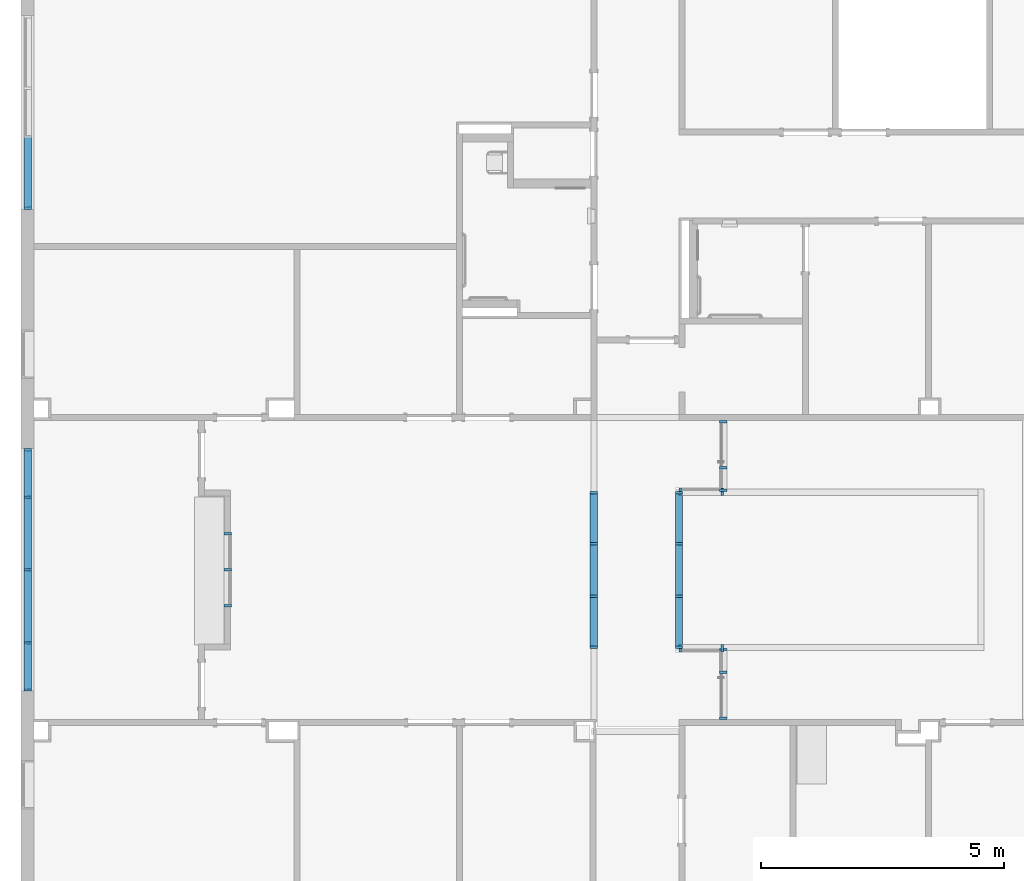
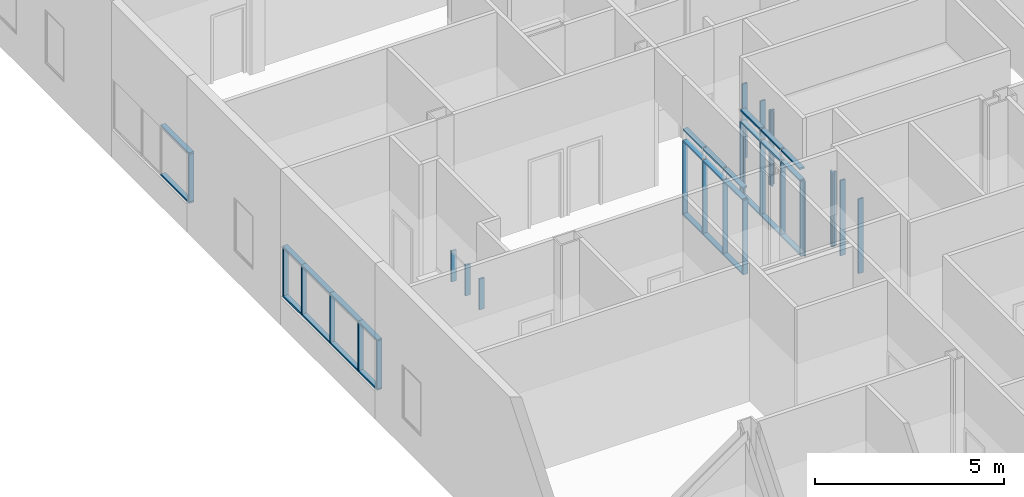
# One storey, part 6 of 82: 55 members, 9 elements without a shape of their own.
"""IFC2X3 building model written with IfcOpenShell, lengths in metres."""

from ifc_helpers import new_model, entity, si_unit, converted_unit, frame, origin, origin_2d_with_axis, place, context, project, spatial, rectangle, extrude, source, transform, mapped, material, type_object, type_shapes, element, aggregate, save


model = new_model("IFC2X3")

# Units and contexts
model_context = context("Model", 3, precision=1e-09, world=origin())
plan_context = context("Plan", 3, precision=1e-09, world=origin())
ifc_project = project(units=[si_unit("LENGTHUNIT", "METRE"), si_unit("AREAUNIT", "SQUARE_METRE"), si_unit("VOLUMEUNIT", "CUBIC_METRE"), converted_unit("PLANEANGLEUNIT", "DEGREE", entity("IfcRatioMeasure", 0.01745329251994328), si_unit("PLANEANGLEUNIT", "RADIAN"), dimensions=[0, 0, 0, 0, 0, 0, 0]), si_unit("TIMEUNIT", "SECOND")], contexts=[model_context, plan_context])

# Site, building, storey
site_placement = place(None, origin())
site = spatial("IfcSite", under=ifc_project, at=site_placement, Name="Default", CompositionType="ELEMENT")
building_placement = place(site_placement, origin())
building = spatial("IfcBuilding", under=site, at=building_placement, CompositionType="ELEMENT")
storey_placement = place(building_placement, origin())
storey = spatial("IfcBuildingStorey", under=building, at=storey_placement, Name="First Floor", CompositionType="ELEMENT", Elevation=-3.531500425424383e-13)

# Curtain wall, member
curtain_wall_1_placement = place(storey_placement, origin())
curtain_wall_1 = element("IfcCurtainWall", 1, at=curtain_wall_1_placement, inside=storey, Name="Curtain Wall:Storefront - Interior", ObjectType="Curtain Wall:Storefront - Interior")
ifc_material = material(Name="Metal - Aluminium")
member_type_1 = type_object("IfcMemberType", Name="50 x 150mm", PredefinedType="MULLION")
shared_shape_1 = source(origin(), model_context, "Body", "SweptSolid", [
    extrude(rectangle(XDim=0.05, YDim=0.15, at=origin_2d_with_axis()), frame((-0.025, 0.0, -2.4), z_axis=(0.0, 0.0, 1.0), x_axis=(-1.0, 0.0, 0.0)), (0.0, 0.0, 1.0), 2.4),
])
type_shapes(member_type_1, [shared_shape_1])
member_1_placement = place(storey_placement, frame((-40.47500000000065, 30.07999999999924, 0.0), z_axis=(0.0, 0.0, -1.0), x_axis=(0.0, -1.0, 0.0)))
member_1 = element("IfcMember", 2, at=member_1_placement, type_object=member_type_1, material=ifc_material, Name="Rectangular Mullion:50 x 150mm:50 x 150mm", ObjectType="50 x 150mm", context=model_context, shape_type="MappedRepresentation", body=[
    mapped(shared_shape_1, transform((0.0, 0.0, 0.0), scale=1.0)),
])

curtain_wall_2_placement = place(storey_placement, origin())
curtain_wall_2 = element("IfcCurtainWall", 3, at=curtain_wall_2_placement, inside=storey, Name="Curtain Wall:Storefront - Interior", ObjectType="Curtain Wall:Storefront - Interior")
member_2_placement = place(storey_placement, frame((-37.80500000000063, 33.30999999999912, 0.0), z_axis=(0.0, 0.0, -1.0), x_axis=(1.0, 0.0, 0.0)))
member_2 = element("IfcMember", 4, at=member_2_placement, type_object=member_type_1, material=ifc_material, Name="Rectangular Mullion:50 x 150mm:50 x 150mm", ObjectType="50 x 150mm", context=model_context, shape_type="MappedRepresentation", body=[
    mapped(shared_shape_1, transform((0.0, 0.0, 0.0), scale=1.0)),
])

curtain_wall_3_placement = place(storey_placement, origin())
curtain_wall_3 = element("IfcCurtainWall", 5, at=curtain_wall_3_placement, inside=storey, Name="Curtain Wall:Storefront - Interior", ObjectType="Curtain Wall:Storefront - Interior")
member_3_placement = place(storey_placement, frame((-38.72000000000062, 30.07999999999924, 0.0), z_axis=(0.0, 0.0, -1.0), x_axis=(-1.0, 0.0, 0.0)))
member_3 = element("IfcMember", 6, at=member_3_placement, type_object=member_type_1, material=ifc_material, Name="Rectangular Mullion:50 x 150mm:50 x 150mm", ObjectType="50 x 150mm", context=model_context, shape_type="MappedRepresentation", body=[
    mapped(shared_shape_1, transform((0.0, 0.0, 0.0), scale=1.0)),
])

curtain_wall_4_placement = place(storey_placement, origin())
curtain_wall_4 = element("IfcCurtainWall", 7, at=curtain_wall_4_placement, inside=storey, Name="Curtain Wall:Storefront - Interior", ObjectType="Curtain Wall:Storefront - Interior")
member_4_placement = place(storey_placement, frame((-37.80500000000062, 30.07999999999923, 0.0), z_axis=(0.0, 0.0, -1.0), x_axis=(0.0, 1.0, 0.0)))
member_4 = element("IfcMember", 8, at=member_4_placement, type_object=member_type_1, material=ifc_material, Name="Rectangular Mullion:50 x 150mm:50 x 150mm", ObjectType="50 x 150mm", context=model_context, shape_type="MappedRepresentation", body=[
    mapped(shared_shape_1, transform((0.0, 0.0, 0.0), scale=1.0)),
])

# Member
member_type_2 = type_object("IfcMemberType", Name="50 x 150mm", PredefinedType="MULLION")
type_shapes(member_type_2, [shared_shape_1])
member_5_placement = place(storey_placement, frame((-40.47500000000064, 33.30999999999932, 2.4), z_axis=(0.0, 0.0, 1.0), x_axis=(0.0, 1.0, 0.0)))
member_5 = element("IfcMember", 9, at=member_5_placement, type_object=member_type_2, material=ifc_material, Name="Rectangular Mullion:50 x 150mm:50 x 150mm", ObjectType="50 x 150mm", context=model_context, shape_type="MappedRepresentation", body=[
    mapped(shared_shape_1, transform((0.0, 0.0, 0.0), scale=1.0)),
])

member_6_placement = place(storey_placement, frame((-37.80500000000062, 30.07999999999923, 2.399999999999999)))
member_6 = element("IfcMember", 10, at=member_6_placement, type_object=member_type_2, material=ifc_material, Name="Rectangular Mullion:50 x 150mm:50 x 150mm", ObjectType="50 x 150mm", context=model_context, shape_type="MappedRepresentation", body=[
    mapped(shared_shape_1, transform((0.0, 0.0, 0.0), scale=1.0)),
])

aggregate(curtain_wall_3, [member_3, member_6])

# Curtain wall, member
curtain_wall_5_placement = place(storey_placement, origin())
curtain_wall_5 = element("IfcCurtainWall", 11, at=curtain_wall_5_placement, inside=storey, Name="Curtain Wall:Storefront - Interior", ObjectType="Curtain Wall:Storefront - Interior")
member_7_placement = place(storey_placement, frame((-37.80500000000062, 34.77954814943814, 0.0), z_axis=(0.0, 0.0, -1.0), x_axis=(0.0, 1.0, 0.0)))
member_7 = element("IfcMember", 12, at=member_7_placement, type_object=member_type_1, material=ifc_material, Name="Rectangular Mullion:50 x 150mm:50 x 150mm", ObjectType="50 x 150mm", context=model_context, shape_type="MappedRepresentation", body=[
    mapped(shared_shape_1, transform((0.0, 0.0, 0.0), scale=1.0)),
])

# Member
member_8_placement = place(storey_placement, frame((-37.80500000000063, 28.60999999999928, 2.399999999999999), z_axis=(0.0, 0.0, 1.0), x_axis=(0.0, -1.0, 0.0)))
member_8 = element("IfcMember", 13, at=member_8_placement, type_object=member_type_2, material=ifc_material, Name="Rectangular Mullion:50 x 150mm:50 x 150mm", ObjectType="50 x 150mm", context=model_context, shape_type="MappedRepresentation", body=[
    mapped(shared_shape_1, transform((0.0, 0.0, 0.0), scale=1.0)),
])

member_9_placement = place(storey_placement, frame((-38.72000000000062, 33.30999999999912, 2.399999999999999), z_axis=(0.0, 0.0, 1.0), x_axis=(-1.0, 0.0, 0.0)))
member_9 = element("IfcMember", 14, at=member_9_placement, type_object=member_type_2, material=ifc_material, Name="Rectangular Mullion:50 x 150mm:50 x 150mm", ObjectType="50 x 150mm", context=model_context, shape_type="MappedRepresentation", body=[
    mapped(shared_shape_1, transform((0.0, 0.0, 0.0), scale=1.0)),
])

aggregate(curtain_wall_2, [member_2, member_9])

# Curtain wall, member
curtain_wall_6_placement = place(storey_placement, origin())
curtain_wall_6 = element("IfcCurtainWall", 15, at=curtain_wall_6_placement, inside=storey, Name="Curtain Wall:Storefront - Interior", ObjectType="Curtain Wall:Storefront - Interior")
member_10_placement = place(storey_placement, frame((-38.72000000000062, 33.30999999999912, 0.0), z_axis=(0.0, 0.0, -1.0), x_axis=(0.0, 1.0, 0.0)))
member_10 = element("IfcMember", 16, at=member_10_placement, type_object=member_type_1, material=ifc_material, Name="Rectangular Mullion:50 x 150mm:50 x 150mm", ObjectType="50 x 150mm", context=model_context, shape_type="MappedRepresentation", body=[
    mapped(shared_shape_1, transform((0.0, 0.0, 0.0), scale=1.0)),
])

# Member
member_11_placement = place(storey_placement, frame((-37.80500000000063, 33.30999999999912, 2.399999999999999), z_axis=(0.0, 0.0, 1.0), x_axis=(0.0, -1.0, 0.0)))
member_11 = element("IfcMember", 17, at=member_11_placement, type_object=member_type_2, material=ifc_material, Name="Rectangular Mullion:50 x 150mm:50 x 150mm", ObjectType="50 x 150mm", context=model_context, shape_type="MappedRepresentation", body=[
    mapped(shared_shape_1, transform((0.0, 0.0, 0.0), scale=1.0)),
])

member_12_placement = place(storey_placement, frame((-38.72000000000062, 30.07999999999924, 2.399999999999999), z_axis=(0.0, 0.0, 1.0), x_axis=(0.0, -1.0, 0.0)))
member_12 = element("IfcMember", 18, at=member_12_placement, type_object=member_type_2, material=ifc_material, Name="Rectangular Mullion:50 x 150mm:50 x 150mm", ObjectType="50 x 150mm", context=model_context, shape_type="MappedRepresentation", body=[
    mapped(shared_shape_1, transform((0.0, 0.0, 0.0), scale=1.0)),
])

# Curtain wall, member
curtain_wall_7_placement = place(storey_placement, origin())
curtain_wall_7 = element("IfcCurtainWall", 19, at=curtain_wall_7_placement, inside=storey, Name="Curtain Wall:Storefront", ObjectType="Curtain Wall:Storefront")
member_type_3 = type_object("IfcMemberType", Name="50 x 150mm", PredefinedType="MULLION")
shared_shape_2 = source(origin(), model_context, "Body", "SweptSolid", [
    extrude(rectangle(XDim=0.05, YDim=0.15, at=origin_2d_with_axis()), frame((-0.025, 0.0, -1.499999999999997), z_axis=(0.0, 0.0, 1.0), x_axis=(-1.0, 0.0, 0.0)), (0.0, 0.0, 1.0), 1.499999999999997),
])
type_shapes(member_type_3, [shared_shape_2])
member_13_placement = place(storey_placement, frame((-52.14650000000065, 30.19495592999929, 0.905), z_axis=(0.0, -1.0, 0.0), x_axis=(0.0, 0.0, -1.0)))
member_13 = element("IfcMember", 20, at=member_13_placement, type_object=member_type_3, material=ifc_material, Name="Rectangular Mullion:50 x 150mm:50 x 150mm", ObjectType="50 x 150mm", context=model_context, shape_type="MappedRepresentation", body=[
    mapped(shared_shape_2, transform((0.0, 0.0, 0.0), scale=1.0)),
])

# Curtain wall, members
curtain_wall_8_placement = place(storey_placement, origin())
curtain_wall_8 = element("IfcCurtainWall", 21, at=curtain_wall_8_placement, inside=storey, Name="Curtain Wall:Storefront", ObjectType="Curtain Wall:Storefront")
member_type_4 = type_object("IfcMemberType", Name="50 x 150mm", PredefinedType="MULLION")
type_shapes(member_type_4, [shared_shape_2])
member_14_placement = place(storey_placement, frame((-52.14650000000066, 40.6299522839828, 2.54), z_axis=(0.0, 1.0, 0.0), x_axis=(0.0, 0.0, 1.0)))
member_14 = element("IfcMember", 22, at=member_14_placement, type_object=member_type_4, material=ifc_material, Name="Rectangular Mullion:50 x 150mm:50 x 150mm", ObjectType="50 x 150mm", context=model_context, shape_type="MappedRepresentation", body=[
    mapped(shared_shape_2, transform((0.0, 0.0, 0.0), scale=1.0)),
])
member_type_5 = type_object("IfcMemberType", Name="50 x 150mm", PredefinedType="MULLION")
type_shapes(member_type_5, [shared_shape_2])
member_15_placement = place(storey_placement, frame((-52.14650000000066, 39.12995228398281, 0.905), z_axis=(0.0, -1.0, 0.0), x_axis=(0.0, 0.0, -1.0)))
member_15 = element("IfcMember", 23, at=member_15_placement, type_object=member_type_5, material=ifc_material, Name="Rectangular Mullion:50 x 150mm:50 x 150mm", ObjectType="50 x 150mm", context=model_context, shape_type="MappedRepresentation", body=[
    mapped(shared_shape_2, transform((0.0, 0.0, 0.0), scale=1.0)),
])

# Member
member_16_placement = place(storey_placement, frame((-52.14650000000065, 31.69495592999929, 0.905), z_axis=(0.0, -1.0, 0.0), x_axis=(0.0, 0.0, -1.0)))
member_16 = element("IfcMember", 24, at=member_16_placement, type_object=member_type_3, material=ifc_material, Name="Rectangular Mullion:50 x 150mm:50 x 150mm", ObjectType="50 x 150mm", context=model_context, shape_type="MappedRepresentation", body=[
    mapped(shared_shape_2, transform((0.0, 0.0, 0.0), scale=1.0)),
])

member_type_6 = type_object("IfcMemberType", Name="50 x 150mm", PredefinedType="MULLION")
type_shapes(member_type_6, [shared_shape_2])
member_17_placement = place(storey_placement, frame((-52.14650000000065, 31.69495592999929, 2.54), z_axis=(0.0, 1.0, 0.0), x_axis=(0.0, 0.0, 1.0)))
member_17 = element("IfcMember", 25, at=member_17_placement, type_object=member_type_6, material=ifc_material, Name="Rectangular Mullion:50 x 150mm:50 x 150mm", ObjectType="50 x 150mm", context=model_context, shape_type="MappedRepresentation", body=[
    mapped(shared_shape_2, transform((0.0, 0.0, 0.0), scale=1.0)),
])

member_18_placement = place(storey_placement, frame((-52.14650000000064, 33.19495592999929, 2.54), z_axis=(0.0, 1.0, 0.0), x_axis=(0.0, 0.0, 1.0)))
member_18 = element("IfcMember", 26, at=member_18_placement, type_object=member_type_6, material=ifc_material, Name="Rectangular Mullion:50 x 150mm:50 x 150mm", ObjectType="50 x 150mm", context=model_context, shape_type="MappedRepresentation", body=[
    mapped(shared_shape_2, transform((0.0, 0.0, 0.0), scale=1.0)),
])

member_type_7 = type_object("IfcMemberType", Name="50 x 150mm", PredefinedType="MULLION")
shared_shape_3 = source(origin(), model_context, "Body", "SweptSolid", [
    extrude(rectangle(XDim=0.05, YDim=0.15, at=origin_2d_with_axis()), frame((-0.025, 0.0, -1.001666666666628), z_axis=(0.0, 0.0, 1.0), x_axis=(-1.0, 0.0, 0.0)), (0.0, 0.0, 1.0), 1.00166666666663),
])
type_shapes(member_type_7, [shared_shape_3])
member_19_placement = place(storey_placement, frame((-38.72000000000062, 33.25999999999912, 2.8), z_axis=(0.0, 1.0, 0.0), x_axis=(0.0, 0.0, 1.0)))
member_19 = element("IfcMember", 27, at=member_19_placement, type_object=member_type_7, material=ifc_material, Name="Rectangular Mullion:50 x 150mm:50 x 150mm", ObjectType="50 x 150mm", context=model_context, shape_type="MappedRepresentation", body=[
    mapped(shared_shape_3, transform((0.0, 0.0, 0.0), scale=1.0)),
])

member_type_8 = type_object("IfcMemberType", Name="50 x 150mm", PredefinedType="MULLION")
type_shapes(member_type_8, [shared_shape_3])
member_20_placement = place(storey_placement, frame((-40.47500000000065, 31.13166666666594, 0.0), z_axis=(0.0, 1.0, 0.0), x_axis=(0.0, 0.0, -1.0)))
member_20 = element("IfcMember", 28, at=member_20_placement, type_object=member_type_8, material=ifc_material, Name="Rectangular Mullion:50 x 150mm:50 x 150mm", ObjectType="50 x 150mm", context=model_context, shape_type="MappedRepresentation", body=[
    mapped(shared_shape_3, transform((0.0, 0.0, 0.0), scale=1.0)),
])

member_21_placement = place(storey_placement, frame((-40.47500000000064, 33.25999999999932, 0.0), z_axis=(0.0, 1.0, 0.0), x_axis=(0.0, 0.0, -1.0)))
member_21 = element("IfcMember", 29, at=member_21_placement, type_object=member_type_8, material=ifc_material, Name="Rectangular Mullion:50 x 150mm:50 x 150mm", ObjectType="50 x 150mm", context=model_context, shape_type="MappedRepresentation", body=[
    mapped(shared_shape_3, transform((0.0, 0.0, 0.0), scale=1.0)),
])

member_22_placement = place(storey_placement, frame((-38.72000000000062, 31.13166666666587, 2.8), z_axis=(0.0, 1.0, 0.0), x_axis=(0.0, 0.0, 1.0)))
member_22 = element("IfcMember", 30, at=member_22_placement, type_object=member_type_7, material=ifc_material, Name="Rectangular Mullion:50 x 150mm:50 x 150mm", ObjectType="50 x 150mm", context=model_context, shape_type="MappedRepresentation", body=[
    mapped(shared_shape_3, transform((0.0, 0.0, 0.0), scale=1.0)),
])

member_23_placement = place(storey_placement, frame((-40.47500000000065, 30.12999999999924, 2.8), z_axis=(0.0, -1.0, 0.0), x_axis=(0.0, 0.0, 1.0)))
member_23 = element("IfcMember", 31, at=member_23_placement, type_object=member_type_7, material=ifc_material, Name="Rectangular Mullion:50 x 150mm:50 x 150mm", ObjectType="50 x 150mm", context=model_context, shape_type="MappedRepresentation", body=[
    mapped(shared_shape_3, transform((0.0, 0.0, 0.0), scale=1.0)),
])

member_24_placement = place(storey_placement, frame((-38.72000000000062, 30.12999999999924, 0.0), z_axis=(0.0, -1.0, 0.0), x_axis=(0.0, 0.0, -1.0)))
member_24 = element("IfcMember", 32, at=member_24_placement, type_object=member_type_8, material=ifc_material, Name="Rectangular Mullion:50 x 150mm:50 x 150mm", ObjectType="50 x 150mm", context=model_context, shape_type="MappedRepresentation", body=[
    mapped(shared_shape_3, transform((0.0, 0.0, 0.0), scale=1.0)),
])

member_25_placement = place(storey_placement, frame((-38.72000000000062, 32.25833333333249, 0.0), z_axis=(0.0, -1.0, 0.0), x_axis=(0.0, 0.0, -1.0)))
member_25 = element("IfcMember", 33, at=member_25_placement, type_object=member_type_8, material=ifc_material, Name="Rectangular Mullion:50 x 150mm:50 x 150mm", ObjectType="50 x 150mm", context=model_context, shape_type="MappedRepresentation", body=[
    mapped(shared_shape_3, transform((0.0, 0.0, 0.0), scale=1.0)),
])

member_26_placement = place(storey_placement, frame((-40.47500000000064, 32.25833333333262, 2.8), z_axis=(0.0, -1.0, 0.0), x_axis=(0.0, 0.0, 1.0)))
member_26 = element("IfcMember", 34, at=member_26_placement, type_object=member_type_7, material=ifc_material, Name="Rectangular Mullion:50 x 150mm:50 x 150mm", ObjectType="50 x 150mm", context=model_context, shape_type="MappedRepresentation", body=[
    mapped(shared_shape_3, transform((0.0, 0.0, 0.0), scale=1.0)),
])

member_type_9 = type_object("IfcMemberType", Name="50 x 150mm", PredefinedType="MULLION")
shared_shape_4 = source(origin(), model_context, "Body", "SweptSolid", [
    extrude(rectangle(XDim=0.05, YDim=0.15, at=origin_2d_with_axis()), frame((-0.025, 0.0, -1.0), z_axis=(0.0, 0.0, 1.0), x_axis=(-1.0, 0.0, 0.0)), (0.0, 0.0, 1.0), 1.0),
])
type_shapes(member_type_9, [shared_shape_4])
member_27_placement = place(storey_placement, frame((-52.14650000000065, 29.19495592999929, 0.905), z_axis=(0.0, -1.0, 0.0), x_axis=(0.0, 0.0, -1.0)))
member_27 = element("IfcMember", 35, at=member_27_placement, type_object=member_type_9, material=ifc_material, Name="Rectangular Mullion:50 x 150mm:50 x 150mm", ObjectType="50 x 150mm", context=model_context, shape_type="MappedRepresentation", body=[
    mapped(shared_shape_4, transform((0.0, 0.0, 0.0), scale=1.0)),
])

member_type_10 = type_object("IfcMemberType", Name="50 x 150mm", PredefinedType="MULLION")
type_shapes(member_type_10, [shared_shape_4])
member_28_placement = place(storey_placement, frame((-52.14650000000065, 30.19495592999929, 2.54), z_axis=(0.0, 1.0, 0.0), x_axis=(0.0, 0.0, 1.0)))
member_28 = element("IfcMember", 36, at=member_28_placement, type_object=member_type_10, material=ifc_material, Name="Rectangular Mullion:50 x 150mm:50 x 150mm", ObjectType="50 x 150mm", context=model_context, shape_type="MappedRepresentation", body=[
    mapped(shared_shape_4, transform((0.0, 0.0, 0.0), scale=1.0)),
])

member_type_11 = type_object("IfcMemberType", Name="50 x 150mm", PredefinedType="MULLION")
type_shapes(member_type_11, [shared_shape_4])
member_29_placement = place(storey_placement, frame((-52.14650000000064, 34.19495592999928, 2.54), z_axis=(0.0, 1.0, 0.0), x_axis=(0.0, 0.0, 1.0)))
member_29 = element("IfcMember", 37, at=member_29_placement, type_object=member_type_11, material=ifc_material, Name="Rectangular Mullion:50 x 150mm:50 x 150mm", ObjectType="50 x 150mm", context=model_context, shape_type="MappedRepresentation", body=[
    mapped(shared_shape_4, transform((0.0, 0.0, 0.0), scale=1.0)),
])

member_type_12 = type_object("IfcMemberType", Name="50 x 150mm", PredefinedType="MULLION")
shared_shape_5 = source(origin(), model_context, "Body", "SweptSolid", [
    extrude(rectangle(XDim=0.05, YDim=0.15, at=origin_2d_with_axis()), frame((0.0, 0.0, -1.535), z_axis=(0.0, 0.0, 1.0), x_axis=(-1.0, 0.0, 0.0)), (0.0, 0.0, 1.0), 1.535),
])
type_shapes(member_type_12, [shared_shape_5])
member_30_placement = place(storey_placement, frame((-52.14650000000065, 30.19495592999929, 0.9550000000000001), z_axis=(0.0, 0.0, -1.0), x_axis=(0.0, 1.0, 0.0)))
member_30 = element("IfcMember", 38, at=member_30_placement, type_object=member_type_12, material=ifc_material, Name="Rectangular Mullion:50 x 150mm:50 x 150mm", ObjectType="50 x 150mm", context=model_context, shape_type="MappedRepresentation", body=[
    mapped(shared_shape_5, transform((0.0, 0.0, 0.0), scale=1.0)),
])

member_31_placement = place(storey_placement, frame((-52.14650000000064, 33.19495592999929, 0.9550000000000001), z_axis=(0.0, 0.0, -1.0), x_axis=(0.0, 1.0, 0.0)))
member_31 = element("IfcMember", 39, at=member_31_placement, type_object=member_type_12, material=ifc_material, Name="Rectangular Mullion:50 x 150mm:50 x 150mm", ObjectType="50 x 150mm", context=model_context, shape_type="MappedRepresentation", body=[
    mapped(shared_shape_5, transform((0.0, 0.0, 0.0), scale=1.0)),
])

member_32_placement = place(storey_placement, frame((-52.14650000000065, 31.69495592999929, 0.9550000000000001), z_axis=(0.0, 0.0, -1.0), x_axis=(0.0, 1.0, 0.0)))
member_32 = element("IfcMember", 40, at=member_32_placement, type_object=member_type_12, material=ifc_material, Name="Rectangular Mullion:50 x 150mm:50 x 150mm", ObjectType="50 x 150mm", context=model_context, shape_type="MappedRepresentation", body=[
    mapped(shared_shape_5, transform((0.0, 0.0, 0.0), scale=1.0)),
])

member_type_13 = type_object("IfcMemberType", Name="50 x 150mm", PredefinedType="MULLION")
shared_shape_6 = source(origin(), model_context, "Body", "SweptSolid", [
    extrude(rectangle(XDim=0.05, YDim=0.15, at=origin_2d_with_axis()), frame((-0.025, 0.0, -1.535), z_axis=(0.0, 0.0, 1.0), x_axis=(-1.0, 0.0, 0.0)), (0.0, 0.0, 1.0), 1.535),
])
type_shapes(member_type_13, [shared_shape_6])
member_33_placement = place(storey_placement, frame((-52.14650000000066, 39.12995228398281, 2.49), z_axis=(0.0, 0.0, 1.0), x_axis=(0.0, -1.0, 0.0)))
member_33 = element("IfcMember", 41, at=member_33_placement, type_object=member_type_13, material=ifc_material, Name="Rectangular Mullion:50 x 150mm:50 x 150mm", ObjectType="50 x 150mm", context=model_context, shape_type="MappedRepresentation", body=[
    mapped(shared_shape_6, transform((0.0, 0.0, 0.0), scale=1.0)),
])

aggregate(curtain_wall_8, [member_33, member_14, member_15])

member_type_14 = type_object("IfcMemberType", Name="50 x 150mm", PredefinedType="MULLION")
type_shapes(member_type_14, [shared_shape_6])
member_34_placement = place(storey_placement, frame((-52.14650000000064, 34.19495592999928, 0.9550000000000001), z_axis=(0.0, 0.0, -1.0), x_axis=(0.0, 1.0, 0.0)))
member_34 = element("IfcMember", 42, at=member_34_placement, type_object=member_type_14, material=ifc_material, Name="Rectangular Mullion:50 x 150mm:50 x 150mm", ObjectType="50 x 150mm", context=model_context, shape_type="MappedRepresentation", body=[
    mapped(shared_shape_6, transform((0.0, 0.0, 0.0), scale=1.0)),
])

member_35_placement = place(storey_placement, frame((-52.14650000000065, 29.19495592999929, 2.49), z_axis=(0.0, 0.0, 1.0), x_axis=(0.0, -1.0, 0.0)))
member_35 = element("IfcMember", 43, at=member_35_placement, type_object=member_type_13, material=ifc_material, Name="Rectangular Mullion:50 x 150mm:50 x 150mm", ObjectType="50 x 150mm", context=model_context, shape_type="MappedRepresentation", body=[
    mapped(shared_shape_6, transform((0.0, 0.0, 0.0), scale=1.0)),
])

member_type_15 = type_object("IfcMemberType", Name="50 x 150mm", PredefinedType="MULLION")
shared_shape_7 = source(origin(), model_context, "Body", "SweptSolid", [
    extrude(rectangle(XDim=0.05, YDim=0.15, at=origin_2d_with_axis()), frame((0.0, 0.0, -2.4), z_axis=(0.0, 0.0, 1.0), x_axis=(-1.0, 0.0, 0.0)), (0.0, 0.0, 1.0), 2.4),
])
type_shapes(member_type_15, [shared_shape_7])
member_36_placement = place(storey_placement, frame((-40.47500000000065, 31.15666666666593, 0.0), z_axis=(0.0, 0.0, -1.0), x_axis=(0.0, -1.0, 0.0)))
member_36 = element("IfcMember", 44, at=member_36_placement, type_object=member_type_15, material=ifc_material, Name="Rectangular Mullion:50 x 150mm:50 x 150mm", ObjectType="50 x 150mm", context=model_context, shape_type="MappedRepresentation", body=[
    mapped(shared_shape_7, transform((0.0, 0.0, 0.0), scale=1.0)),
])

member_37_placement = place(storey_placement, frame((-40.47500000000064, 32.23333333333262, 0.0), z_axis=(0.0, 0.0, -1.0), x_axis=(0.0, -1.0, 0.0)))
member_37 = element("IfcMember", 45, at=member_37_placement, type_object=member_type_15, material=ifc_material, Name="Rectangular Mullion:50 x 150mm:50 x 150mm", ObjectType="50 x 150mm", context=model_context, shape_type="MappedRepresentation", body=[
    mapped(shared_shape_7, transform((0.0, 0.0, 0.0), scale=1.0)),
])

member_38_placement = place(storey_placement, frame((-38.72000000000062, 32.2333333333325, 0.0), z_axis=(0.0, 0.0, -1.0), x_axis=(0.0, 1.0, 0.0)))
member_38 = element("IfcMember", 46, at=member_38_placement, type_object=member_type_15, material=ifc_material, Name="Rectangular Mullion:50 x 150mm:50 x 150mm", ObjectType="50 x 150mm", context=model_context, shape_type="MappedRepresentation", body=[
    mapped(shared_shape_7, transform((0.0, 0.0, 0.0), scale=1.0)),
])

member_39_placement = place(storey_placement, frame((-38.72000000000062, 31.15666666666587, 0.0), z_axis=(0.0, 0.0, -1.0), x_axis=(0.0, 1.0, 0.0)))
member_39 = element("IfcMember", 47, at=member_39_placement, type_object=member_type_15, material=ifc_material, Name="Rectangular Mullion:50 x 150mm:50 x 150mm", ObjectType="50 x 150mm", context=model_context, shape_type="MappedRepresentation", body=[
    mapped(shared_shape_7, transform((0.0, 0.0, 0.0), scale=1.0)),
])

member_type_16 = type_object("IfcMemberType", Name="50 x 150mm", PredefinedType="MULLION")
shared_shape_8 = source(origin(), model_context, "Body", "SweptSolid", [
    extrude(rectangle(XDim=0.05, YDim=0.15, at=origin_2d_with_axis()), frame((-0.025, 0.0, -1.026666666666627), z_axis=(0.0, 0.0, 1.0), x_axis=(-1.0, 0.0, 0.0)), (0.0, 0.0, 1.0), 1.026666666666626),
])
type_shapes(member_type_16, [shared_shape_8])
member_40_placement = place(storey_placement, frame((-38.72000000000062, 32.2083333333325, 2.8), z_axis=(0.0, 1.0, 0.0), x_axis=(0.0, 0.0, 1.0)))
member_40 = element("IfcMember", 48, at=member_40_placement, type_object=member_type_16, material=ifc_material, Name="Rectangular Mullion:50 x 150mm:50 x 150mm", ObjectType="50 x 150mm", context=model_context, shape_type="MappedRepresentation", body=[
    mapped(shared_shape_8, transform((0.0, 0.0, 0.0), scale=1.0)),
])

member_type_17 = type_object("IfcMemberType", Name="50 x 150mm", PredefinedType="MULLION")
type_shapes(member_type_17, [shared_shape_8])
member_41_placement = place(storey_placement, frame((-40.47500000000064, 32.20833333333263, 0.0), z_axis=(0.0, 1.0, 0.0), x_axis=(0.0, 0.0, -1.0)))
member_41 = element("IfcMember", 49, at=member_41_placement, type_object=member_type_17, material=ifc_material, Name="Rectangular Mullion:50 x 150mm:50 x 150mm", ObjectType="50 x 150mm", context=model_context, shape_type="MappedRepresentation", body=[
    mapped(shared_shape_8, transform((0.0, 0.0, 0.0), scale=1.0)),
])

member_42_placement = place(storey_placement, frame((-40.47500000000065, 31.18166666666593, 2.8), z_axis=(0.0, -1.0, 0.0), x_axis=(0.0, 0.0, 1.0)))
member_42 = element("IfcMember", 50, at=member_42_placement, type_object=member_type_16, material=ifc_material, Name="Rectangular Mullion:50 x 150mm:50 x 150mm", ObjectType="50 x 150mm", context=model_context, shape_type="MappedRepresentation", body=[
    mapped(shared_shape_8, transform((0.0, 0.0, 0.0), scale=1.0)),
])

member_43_placement = place(storey_placement, frame((-38.72000000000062, 31.18166666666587, 0.0), z_axis=(0.0, -1.0, 0.0), x_axis=(0.0, 0.0, -1.0)))
member_43 = element("IfcMember", 51, at=member_43_placement, type_object=member_type_17, material=ifc_material, Name="Rectangular Mullion:50 x 150mm:50 x 150mm", ObjectType="50 x 150mm", context=model_context, shape_type="MappedRepresentation", body=[
    mapped(shared_shape_8, transform((0.0, 0.0, 0.0), scale=1.0)),
])

member_type_18 = type_object("IfcMemberType", Name="50 x 150mm", PredefinedType="MULLION")
shared_shape_9 = source(origin(), model_context, "Body", "SweptSolid", [
    extrude(rectangle(XDim=0.05, YDim=0.15, at=origin_2d_with_axis()), frame((0.0, 0.0, -1.001666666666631), z_axis=(0.0, 0.0, 1.0), x_axis=(-1.0, 0.0, 0.0)), (0.0, 0.0, 1.0), 1.00166666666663),
])
type_shapes(member_type_18, [shared_shape_9])
member_44_placement = place(storey_placement, frame((-40.47500000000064, 32.25833333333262, 2.4), z_axis=(0.0, -1.0, 0.0), x_axis=(0.0, 0.0, 1.0)))
member_44 = element("IfcMember", 52, at=member_44_placement, type_object=member_type_18, material=ifc_material, Name="Rectangular Mullion:50 x 150mm:50 x 150mm", ObjectType="50 x 150mm", context=model_context, shape_type="MappedRepresentation", body=[
    mapped(shared_shape_9, transform((0.0, 0.0, 0.0), scale=1.0)),
])

member_45_placement = place(storey_placement, frame((-40.47500000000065, 30.12999999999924, 2.4), z_axis=(0.0, -1.0, 0.0), x_axis=(0.0, 0.0, 1.0)))
member_45 = element("IfcMember", 53, at=member_45_placement, type_object=member_type_18, material=ifc_material, Name="Rectangular Mullion:50 x 150mm:50 x 150mm", ObjectType="50 x 150mm", context=model_context, shape_type="MappedRepresentation", body=[
    mapped(shared_shape_9, transform((0.0, 0.0, 0.0), scale=1.0)),
])

member_46_placement = place(storey_placement, frame((-38.72000000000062, 31.13166666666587, 2.399999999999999), z_axis=(0.0, 1.0, 0.0), x_axis=(0.0, 0.0, 1.0)))
member_46 = element("IfcMember", 54, at=member_46_placement, type_object=member_type_18, material=ifc_material, Name="Rectangular Mullion:50 x 150mm:50 x 150mm", ObjectType="50 x 150mm", context=model_context, shape_type="MappedRepresentation", body=[
    mapped(shared_shape_9, transform((0.0, 0.0, 0.0), scale=1.0)),
])

member_47_placement = place(storey_placement, frame((-38.72000000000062, 33.25999999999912, 2.399999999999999), z_axis=(0.0, 1.0, 0.0), x_axis=(0.0, 0.0, 1.0)))
member_47 = element("IfcMember", 55, at=member_47_placement, type_object=member_type_18, material=ifc_material, Name="Rectangular Mullion:50 x 150mm:50 x 150mm", ObjectType="50 x 150mm", context=model_context, shape_type="MappedRepresentation", body=[
    mapped(shared_shape_9, transform((0.0, 0.0, 0.0), scale=1.0)),
])

# Curtain wall, members
curtain_wall_9_placement = place(storey_placement, origin())
curtain_wall_9 = element("IfcCurtainWall", 56, at=curtain_wall_9_placement, inside=storey, Name="Curtain Wall:Storefront - Interior", ObjectType="Curtain Wall:Storefront - Interior")
member_type_19 = type_object("IfcMemberType", Name="50 x 150mm", PredefinedType="MULLION")
shared_shape_10 = source(origin(), model_context, "Body", "SweptSolid", [
    extrude(rectangle(XDim=0.05, YDim=0.15, at=origin_2d_with_axis()), frame((-0.025, 0.0, -1.0), z_axis=(0.0, 0.0, 1.0), x_axis=(-1.0, 0.0, 0.0)), (0.0, 0.0, 1.0), 0.9999999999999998),
])
type_shapes(member_type_19, [shared_shape_10])
member_48_placement = place(storey_placement, frame((-48.02299986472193, 32.46399999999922, 2.0), z_axis=(0.0, 0.0, 1.0), x_axis=(0.0, 1.0, 0.0)))
member_48 = element("IfcMember", 57, at=member_48_placement, type_object=member_type_19, material=ifc_material, Name="Rectangular Mullion:50 x 150mm:50 x 150mm", ObjectType="50 x 150mm", context=model_context, shape_type="MappedRepresentation", body=[
    mapped(shared_shape_10, transform((0.0, 0.0, 0.0), scale=1.0)),
])
member_type_20 = type_object("IfcMemberType", Name="50 x 150mm", PredefinedType="MULLION")
type_shapes(member_type_20, [shared_shape_10])
member_49_placement = place(storey_placement, frame((-48.02299986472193, 30.92999999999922, 1.0), z_axis=(0.0, 0.0, -1.0), x_axis=(0.0, -1.0, 0.0)))
member_49 = element("IfcMember", 58, at=member_49_placement, type_object=member_type_20, material=ifc_material, Name="Rectangular Mullion:50 x 150mm:50 x 150mm", ObjectType="50 x 150mm", context=model_context, shape_type="MappedRepresentation", body=[
    mapped(shared_shape_10, transform((0.0, 0.0, 0.0), scale=1.0)),
])

# Member
member_type_21 = type_object("IfcMemberType", Name="50 x 150mm", PredefinedType="MULLION")
shared_shape_11 = source(origin(), model_context, "Body", "SweptSolid", [
    extrude(rectangle(XDim=0.05, YDim=0.15, at=origin_2d_with_axis()), frame((0.0, 0.0, -1.026666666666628), z_axis=(0.0, 0.0, 1.0), x_axis=(-1.0, 0.0, 0.0)), (0.0, 0.0, 1.0), 1.026666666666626),
])
type_shapes(member_type_21, [shared_shape_11])
member_50_placement = place(storey_placement, frame((-40.47500000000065, 31.18166666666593, 2.4), z_axis=(0.0, -1.0, 0.0), x_axis=(0.0, 0.0, 1.0)))
member_50 = element("IfcMember", 59, at=member_50_placement, type_object=member_type_21, material=ifc_material, Name="Rectangular Mullion:50 x 150mm:50 x 150mm", ObjectType="50 x 150mm", context=model_context, shape_type="MappedRepresentation", body=[
    mapped(shared_shape_11, transform((0.0, 0.0, 0.0), scale=1.0)),
])

aggregate(curtain_wall_1, [member_36, member_37, member_41, member_50, member_44, member_42, member_20, member_21, member_1, member_5, member_23, member_45, member_26])

member_51_placement = place(storey_placement, frame((-38.72000000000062, 32.2083333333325, 2.399999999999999), z_axis=(0.0, 1.0, 0.0), x_axis=(0.0, 0.0, 1.0)))
member_51 = element("IfcMember", 60, at=member_51_placement, type_object=member_type_21, material=ifc_material, Name="Rectangular Mullion:50 x 150mm:50 x 150mm", ObjectType="50 x 150mm", context=model_context, shape_type="MappedRepresentation", body=[
    mapped(shared_shape_11, transform((0.0, 0.0, 0.0), scale=1.0)),
])

aggregate(curtain_wall_6, [member_40, member_19, member_22, member_24, member_25, member_46, member_10, member_43, member_38, member_12, member_39, member_47, member_51])

member_type_22 = type_object("IfcMemberType", Name="50 x 150mm", PredefinedType="MULLION")
shared_shape_12 = source(origin(), model_context, "Body", "SweptSolid", [
    extrude(rectangle(XDim=0.05, YDim=0.15, at=origin_2d_with_axis()), frame((0.0, 0.0, -2.424999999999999), z_axis=(0.0, 0.0, 1.0), x_axis=(-1.0, 0.0, 0.0)), (0.0, 0.0, 1.0), 2.424999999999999),
])
type_shapes(member_type_22, [shared_shape_12])
member_52_placement = place(storey_placement, frame((-37.80500000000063, 33.80499939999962, 0.0), z_axis=(0.0, 0.0, -1.0), x_axis=(0.0, 1.0, 0.0)))
member_52 = element("IfcMember", 61, at=member_52_placement, type_object=member_type_22, material=ifc_material, Name="Rectangular Mullion:50 x 150mm:50 x 150mm", ObjectType="50 x 150mm", context=model_context, shape_type="MappedRepresentation", body=[
    mapped(shared_shape_12, transform((0.0, 0.0, 0.0), scale=1.0)),
])

aggregate(curtain_wall_5, [member_52, member_7, member_11])

member_53_placement = place(storey_placement, frame((-37.80500000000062, 29.58600059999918, 0.0), z_axis=(0.0, 0.0, -1.0), x_axis=(0.0, 1.0, 0.0)))
member_53 = element("IfcMember", 62, at=member_53_placement, type_object=member_type_22, material=ifc_material, Name="Rectangular Mullion:50 x 150mm:50 x 150mm", ObjectType="50 x 150mm", context=model_context, shape_type="MappedRepresentation", body=[
    mapped(shared_shape_12, transform((0.0, 0.0, 0.0), scale=1.0)),
])

aggregate(curtain_wall_4, [member_4, member_53, member_8])

member_type_23 = type_object("IfcMemberType", Name="50 x 150mm", PredefinedType="MULLION")
shared_shape_13 = source(origin(), model_context, "Body", "SweptSolid", [
    extrude(rectangle(XDim=0.05, YDim=0.15, at=origin_2d_with_axis()), frame((0.0, 0.0, -1.0), z_axis=(0.0, 0.0, 1.0), x_axis=(-1.0, 0.0, 0.0)), (0.0, 0.0, 1.0), 0.9999999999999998),
])
type_shapes(member_type_23, [shared_shape_13])
member_54_placement = place(storey_placement, frame((-48.02299986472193, 31.69699999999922, 1.0), z_axis=(0.0, 0.0, -1.0), x_axis=(0.0, -1.0, 0.0)))
member_54 = element("IfcMember", 63, at=member_54_placement, type_object=member_type_23, material=ifc_material, Name="Rectangular Mullion:50 x 150mm:50 x 150mm", ObjectType="50 x 150mm", context=model_context, shape_type="MappedRepresentation", body=[
    mapped(shared_shape_13, transform((0.0, 0.0, 0.0), scale=1.0)),
])

aggregate(curtain_wall_9, [member_54, member_48, member_49])

member_type_24 = type_object("IfcMemberType", Name="50 x 150mm", PredefinedType="MULLION")
shared_shape_14 = source(origin(), model_context, "Body", "SweptSolid", [
    extrude(rectangle(XDim=0.05, YDim=0.15, at=origin_2d_with_axis()), frame((-0.025, 0.0, -1.0), z_axis=(0.0, 0.0, 1.0), x_axis=(-1.0, 0.0, 0.0)), (0.0, 0.0, 1.0), 0.9999999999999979),
])
type_shapes(member_type_24, [shared_shape_14])
member_55_placement = place(storey_placement, frame((-52.14650000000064, 33.19495592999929, 0.905), z_axis=(0.0, -1.0, 0.0), x_axis=(0.0, 0.0, -1.0)))
member_55 = element("IfcMember", 64, at=member_55_placement, type_object=member_type_24, material=ifc_material, Name="Rectangular Mullion:50 x 150mm:50 x 150mm", ObjectType="50 x 150mm", context=model_context, shape_type="MappedRepresentation", body=[
    mapped(shared_shape_14, transform((0.0, 0.0, 0.0), scale=1.0)),
])

aggregate(curtain_wall_7, [member_30, member_27, member_13, member_31, member_34, member_16, member_17, member_28, member_18, member_55, member_35, member_32, member_29])

save(model, "model.ifc")
